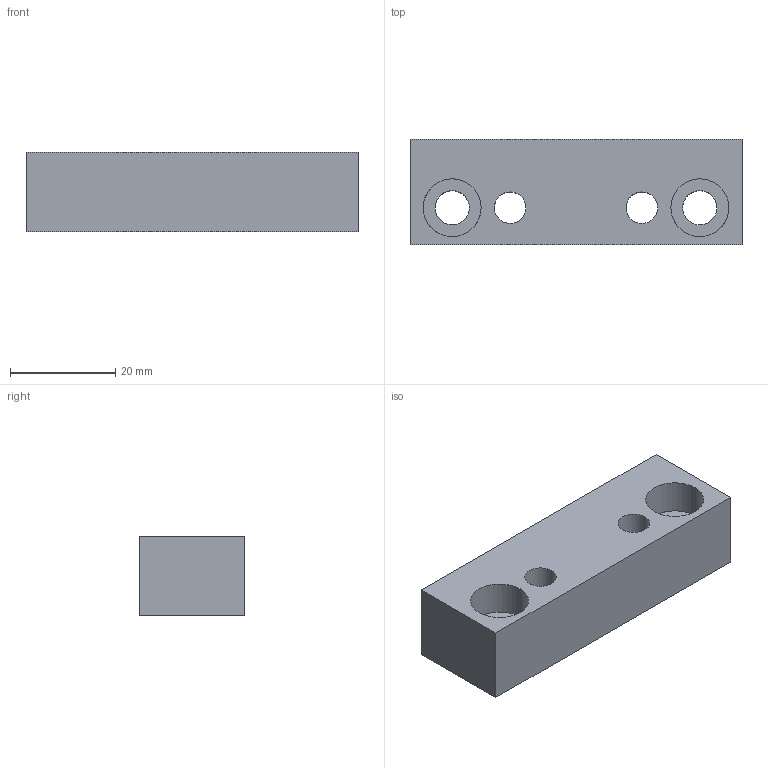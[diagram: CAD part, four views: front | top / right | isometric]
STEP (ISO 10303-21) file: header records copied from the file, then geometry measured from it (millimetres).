
FILE_DESCRIPTION(('CATIA V5 STEP Exchange'),'2;1');
FILE_NAME('C:\Users\Utente\Desktop\3D files G405\G40515063.stp','2020-04-22T09:25:24+00:00',('none'),('none'),'CATIA Version 5 Release 20 GA (IN-10)','CATIA V5 STEP AP203','none');
FILE_SCHEMA(('CONFIG_CONTROL_DESIGN'));
Length unit declared in the file: millimetre
Products named in the file (1): G40515063
Bounding box: 63 x 20 x 15 mm (x, y, z)
Surface area: 7313.7 mm2 (no closed solid volume)
Topology: 0 solids, 156 shells, 156 faces, 672 edges, 616 vertices
Faces by surface type: revolution 76, cylinder 56, plane 24
Entity records: 7720 total; most frequent: CARTESIAN_POINT 2639, DIRECTION 798, ORIENTED_EDGE 616, EDGE_CURVE 616, VERTEX_POINT 616, AXIS2_PLACEMENT_3D 355, VECTOR 288, LINE 288
